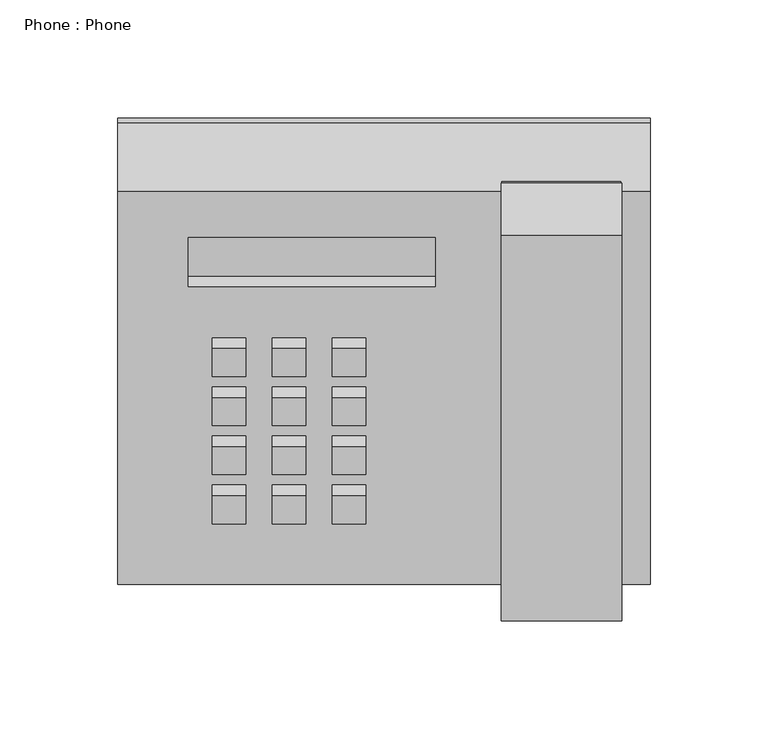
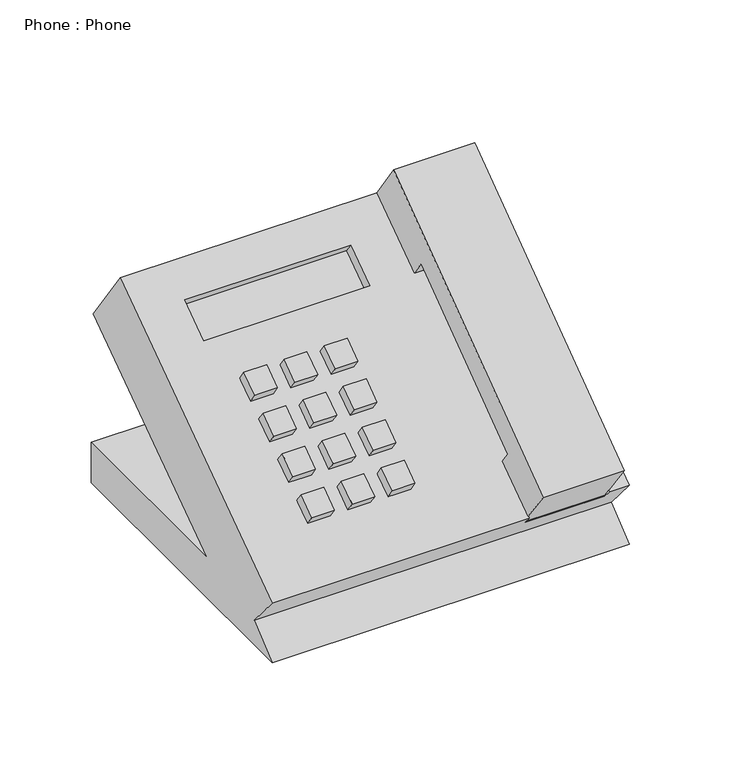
"""IFC4 building model written with IfcOpenShell, lengths in millimetres: proxy geometry, Phone : Phone."""

from ifc_helpers import new_model, si_unit, frame, origin, place, context, project, spatial, polyline, circle_curve, outline, extrude, source, transform, mapped, element, save
from ifc_brep_helpers import plane_surface, revolved_surface, advanced_brep


def phone_phone_b8b7aebd(model_context):
    return source(origin(), model_context, "Body", "SolidModel", [
        extrude(outline(polyline([(-192.7959916, 137.7049621), (-287.6619827, 68.0708655), (-277.2292229, 53.8577982), (-305.0105645, 33.4665172), (-326.4110834, 62.6228576), (-162.9996365, 182.5655431), (-140.703506, 150.723379), (-181.7747369, 121.9649843), (-192.7959916, 137.7049621)])), frame((-197.7434319, 0.0, 0.0), z_axis=(1.0, 0.0, 0.0), x_axis=(0.0, 1.0, 0.0)), (0.0, 0.0, 1.0), 51.1683357),
        extrude(outline(polyline([(14.2875, 0.0), (0.0, 0.0), (0.0, 14.3927765), (14.2875, 14.3927765), (14.2875, 0.0)])), frame((-255.1016834, -248.0305062, 83.5344382), z_axis=(0.0, -0.5735764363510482, 0.8191520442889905), x_axis=(-1.0, 0.0, 0.0)), (0.0, 0.0, 1.0), 7.9375),
        extrude(outline(polyline([(14.2875, 0.0), (0.0, 0.0), (0.0, 14.3927765), (14.2875, 14.3927765), (14.2875, 0.0)])), frame((-255.1016834, -268.8369681, 68.9655967), z_axis=(0.0, -0.5735764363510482, 0.8191520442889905), x_axis=(-1.0, 0.0, 0.0)), (0.0, 0.0, 1.0), 7.9375),
        extrude(outline(polyline([(14.2875, 0.0), (0.0, 0.0), (0.0, 14.3927765), (14.2875, 14.3927765), (14.2875, 0.0)])), frame((-280.5016834, -268.8369681, 68.9655967), z_axis=(0.0, -0.5735764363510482, 0.8191520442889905), x_axis=(-1.0, 0.0, 0.0)), (0.0, 0.0, 1.0), 7.9375),
        extrude(outline(polyline([(14.2875, 0.0), (0.0, 0.0), (0.0, 14.3927765), (14.2875, 14.3927765), (14.2875, 0.0)])), frame((-305.9016834, -268.8369681, 68.9655967), z_axis=(0.0, -0.5735764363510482, 0.8191520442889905), x_axis=(-1.0, 0.0, 0.0)), (0.0, 0.0, 1.0), 7.9375),
        extrude(outline(polyline([(14.2875, 0.0), (0.0, 0.0), (0.0, 14.3927765), (14.2875, 14.3927765), (14.2875, 0.0)])), frame((-305.9016834, -248.0305062, 83.5344382), z_axis=(0.0, -0.5735764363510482, 0.8191520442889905), x_axis=(-1.0, 0.0, 0.0)), (0.0, 0.0, 1.0), 7.9375),
        extrude(outline(polyline([(14.2875, 0.0), (0.0, 0.0), (0.0, 14.3927765), (14.2875, 14.3927765), (14.2875, 0.0)])), frame((-280.5016834, -227.2240442, 98.1032797), z_axis=(0.0, -0.5735764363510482, 0.8191520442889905), x_axis=(-1.0, 0.0, 0.0)), (0.0, 0.0, 1.0), 7.9375),
        extrude(outline(polyline([(14.2875, 0.0), (0.0, 0.0), (0.0, 14.3927765), (14.2875, 14.3927765), (14.2875, 0.0)])), frame((-305.9016834, -227.2240442, 98.1032797), z_axis=(0.0, -0.5735764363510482, 0.8191520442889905), x_axis=(-1.0, 0.0, 0.0)), (0.0, 0.0, 1.0), 7.9375),
        extrude(outline(polyline([(14.2875, 0.0), (0.0, 0.0), (0.0, 14.3927765), (14.2875, 14.3927765), (14.2875, 0.0)])), frame((-280.5016834, -248.0305062, 83.5344382), z_axis=(0.0, -0.5735764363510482, 0.8191520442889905), x_axis=(-1.0, 0.0, 0.0)), (0.0, 0.0, 1.0), 7.9375),
        extrude(outline(polyline([(14.2875, 0.0), (0.0, 0.0), (0.0, 14.3927765), (14.2875, 14.3927765), (14.2875, 0.0)])), frame((-255.1016834, -227.2240442, 98.1032797), z_axis=(0.0, -0.5735764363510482, 0.8191520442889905), x_axis=(-1.0, 0.0, 0.0)), (0.0, 0.0, 1.0), 7.9375),
        extrude(outline(polyline([(14.2875, 0.0), (0.0, 0.0), (0.0, 14.3927765), (14.2875, 14.3927765), (14.2875, 0.0)])), frame((-305.9016834, -206.4175823, 112.6721212), z_axis=(0.0, -0.5735764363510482, 0.8191520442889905), x_axis=(-1.0, 0.0, 0.0)), (0.0, 0.0, 1.0), 7.9375),
        extrude(outline(polyline([(14.2875, 0.0), (0.0, 0.0), (0.0, 14.3927765), (14.2875, 14.3927765), (14.2875, 0.0)])), frame((-280.5016834, -206.4175823, 112.6721212), z_axis=(0.0, -0.5735764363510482, 0.8191520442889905), x_axis=(-1.0, 0.0, 0.0)), (0.0, 0.0, 1.0), 7.9375),
        extrude(outline(polyline([(14.2875, 0.0), (0.0, 0.0), (0.0, 14.3927765), (14.2875, 14.3927765), (14.2875, 0.0)])), frame((-255.1016834, -206.4175823, 112.6721212), z_axis=(0.0, -0.5735764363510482, 0.8191520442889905), x_axis=(-1.0, 0.0, 0.0)), (0.0, 0.0, 1.0), 7.9375),
        advanced_brep(
        [(-134.6688462, -310.896229, 0.0), (-134.6688462, -113.1456221, 0.0), (-134.6688462, -113.1456221, 27.0401443), (-134.6688462, -240.1456221, 27.0401443), (-134.6688462, -115.3068506, 114.4531932), (-134.6688462, -144.4445336, 156.0661171), (-134.6688462, -310.896229, 39.5153852), (-134.6688462, -291.4387001, 16.3268053), (-360.0938462, -310.896229, 0.0), (-360.0938462, -291.4387001, 16.3268053), (-360.0938462, -310.896229, 39.5153852), (-360.0938462, -144.4445336, 156.0661171), (-360.0938462, -115.3068506, 114.4531932), (-360.0938462, -240.1456221, 27.0401443), (-360.0938462, -113.1456221, 27.0401443), (-360.0938462, -113.1456221, 0.0), (-146.9434319, -310.896229, 39.5153852), (-146.9434319, -305.774613, 33.411681), (-197.7434319, -305.774613, 33.411681), (-197.7434319, -310.896229, 39.5153852), (-146.9434319, -144.4445336, 156.0661171), (-146.9434319, -165.2509955, 141.4972756), (-197.7434319, -165.2509955, 141.4972756), (-197.7434319, -144.4445336, 156.0661171), (-197.7434319, -295.2913825, 50.4420163), (-146.9434319, -295.2913825, 50.4420163), (-225.6135974, -163.8453353, 142.4815295), (-225.6135974, -184.6517972, 127.912688), (-330.264726, -184.6517972, 127.912688), (-330.264726, -163.8453353, 142.4815295), (-197.7434319, -139.8917706, 149.5640977), (-146.9434319, -139.8917706, 149.5640977), (-330.264726, -159.2925723, 135.9795101), (-330.264726, -180.0990342, 121.4106686), (-225.6135974, -180.0990342, 121.4106686), (-225.6135974, -159.2925723, 135.9795101), (-197.7434319, -160.6982325, 134.9952562), (-146.9434319, -160.6982325, 134.9952562), (-197.7434319, -290.7386196, 43.939997), (-146.9434319, -290.7386196, 43.939997)],
        [
            (0, 1),
            (1, 2),
            (2, 3),
            (3, 4),
            (4, 5),
            (5, 6),
            (6, 7),
            (7, 0),
            (8, 9),
            (9, 10),
            (10, 11),
            (11, 12),
            (12, 13),
            (13, 14),
            (14, 15),
            (15, 8),
            (7, 9),
            (8, 0),
            (6, 16),
            (16, 17),
            (17, 18),
            (18, 19),
            (19, 10),
            (5, 20),
            (20, 21),
            (21, 22, circle_curve(frame((-172.3434319, -165.2509955, 141.4972756), z_axis=(0.0, 0.5735764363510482, -0.8191520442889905), x_axis=(-1.0, 0.0, 0.0)), 25.4)),
            (22, 23),
            (23, 11),
            (19, 24),
            (24, 25, circle_curve(frame((-172.3434319, -301.9734201, 45.7632032), z_axis=(0.0, 0.5735764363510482, -0.8191520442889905), x_axis=(-1.0, 0.0, 0.0)), 26.6777233)),
            (25, 16),
            (26, 27),
            (27, 28),
            (28, 29),
            (29, 26),
            (4, 12),
            (23, 30),
            (30, 31),
            (31, 20),
            (3, 13),
            (2, 14),
            (1, 15),
            (32, 33),
            (33, 34),
            (34, 35),
            (35, 32),
            (35, 26),
            (29, 32),
            (34, 27),
            (33, 28),
            (30, 36),
            (36, 37, circle_curve(frame((-172.3434319, -160.6982325, 134.9952562), z_axis=(0.0, -0.5735764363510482, 0.8191520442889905), x_axis=(-1.0, 0.0, 0.0)), 25.4)),
            (37, 31),
            (37, 21),
            (36, 22),
            (38, 18),
            (17, 39),
            (39, 38, circle_curve(frame((-172.3434319, -297.4206572, 39.2611839), z_axis=(0.0, -0.5735764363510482, 0.8191520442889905), x_axis=(-1.0, 0.0, 0.0)), 26.6777233)),
            (25, 39),
            (38, 24),
        ],
        [
            plane_surface(frame((-134.6688462, -310.896229, 0.0), z_axis=(1.0, 0.0, 0.0), x_axis=(0.0, 0.7660444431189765, 0.6427876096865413))),
            plane_surface(frame((-360.0938462, -310.896229, 0.0), z_axis=(-1.0, 0.0, 0.0), x_axis=(0.0, -0.7660444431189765, -0.6427876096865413))),
            plane_surface(frame((-134.6688462, -310.896229, 0.0), z_axis=(0.0, -0.6427876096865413, 0.7660444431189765), x_axis=(-1.0, 0.0, 0.0))),
            plane_surface(frame((-134.6688462, -291.4387001, 16.3268053), z_axis=(0.0, -0.7660444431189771, -0.6427876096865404), x_axis=(-1.0, 0.0, 0.0))),
            plane_surface(frame((-134.6688462, -310.896229, 39.5153852), z_axis=(0.0, -0.5735764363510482, 0.8191520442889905), x_axis=(-1.0, 0.0, 0.0))),
            plane_surface(frame((-134.6688462, -144.4445336, 156.0661171), z_axis=(0.0, 0.8191520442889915, 0.5735764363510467), x_axis=(-1.0, 0.0, 0.0))),
            plane_surface(frame((-134.6688462, -115.3068506, 114.4531932), z_axis=(0.0, 0.57357643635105, -0.819152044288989), x_axis=(-1.0, 0.0, 0.0))),
            plane_surface(frame((-134.6688462, -240.1456221, 27.0401443), z_axis=(0.0, 0.0, 1.0), x_axis=(-1.0, 0.0, 0.0))),
            plane_surface(frame((-134.6688462, -113.1456221, 27.0401443), z_axis=(0.0, 1.0, 0.0), x_axis=(-1.0, 0.0, 0.0))),
            plane_surface(frame((-134.6688462, -113.1456221, 0.0), z_axis=(0.0, 0.0, -1.0), x_axis=(-1.0, 0.0, 0.0))),
            plane_surface(frame((-203.264726, -159.2925723, 135.9795101), z_axis=(0.0, -0.5735764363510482, 0.8191520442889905), x_axis=(-1.0, 0.0, 0.0))),
            plane_surface(frame((-330.264726, -163.8453353, 142.4815295), z_axis=(0.0, -0.8191520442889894, -0.5735764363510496), x_axis=(0.0, 0.5735764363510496, -0.8191520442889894))),
            plane_surface(frame((-225.6135974, -163.8453353, 142.4815295), z_axis=(-1.0, 0.0, 0.0), x_axis=(0.0, 0.5735764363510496, -0.8191520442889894))),
            plane_surface(frame((-225.6135974, -184.6517972, 127.912688), z_axis=(0.0, 0.8191520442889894, 0.5735764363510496), x_axis=(0.0, 0.5735764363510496, -0.8191520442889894))),
            plane_surface(frame((-330.264726, -184.6517972, 127.912688), z_axis=(1.0, 0.0, 0.0), x_axis=(0.0, 0.5735764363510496, -0.8191520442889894))),
            plane_surface(frame((-146.9434319, -139.8917706, 149.5640977), z_axis=(0.0, -0.5735764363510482, 0.8191520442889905), x_axis=(-1.0, 0.0, 0.0))),
            plane_surface(frame((-146.9434319, -144.4445336, 156.0661171), z_axis=(-1.0, 0.0, 0.0), x_axis=(0.0, 0.5735764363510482, -0.8191520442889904))),
            revolved_surface(polyline([(-197.74343190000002, -165.25099549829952, 141.4972756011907), (-197.74343190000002, -160.6982325, 134.9952562)]), (-172.3434319, -160.6982325, 134.9952562), (0.0, -0.5735764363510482, 0.8191520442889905)),
            plane_surface(frame((-197.7434319, -165.2509955, 141.4972756), z_axis=(1.0, 0.0, 0.0), x_axis=(0.0, 0.5735764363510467, -0.8191520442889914))),
            plane_surface(frame((-146.9434319, -308.4443251, 31.5423285), z_axis=(0.0, -0.5735764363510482, 0.8191520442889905), x_axis=(0.0, 0.8191520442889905, 0.5735764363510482))),
            plane_surface(frame((-146.9434319, -295.2913825, 50.4420163), z_axis=(-1.0000000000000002, 0.0, 0.0), x_axis=(0.0, 0.5735764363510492, -0.8191520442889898))),
            plane_surface(frame((-197.7434319, -312.997088, 38.0443478), z_axis=(1.0000000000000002, 0.0, 0.0), x_axis=(0.0, 0.5735764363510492, -0.8191520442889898))),
            revolved_surface(polyline([(-199.0211552, -301.97342011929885, 45.76320318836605), (-199.0211552, -297.4206572, 39.2611839)]), (-172.3434319, -297.4206572, 39.2611839), (0.0, -0.5735764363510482, 0.8191520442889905)),
        ],
        [
            (0, [[1, 2, 3, 4, 5, 6, 7, 8]]),
            (1, [[9, 10, 11, 12, 13, 14, 15, 16]]),
            (2, [[17, -9, 18, -8]]),
            (3, [[19, 20, 21, 22, 23, -10, -17, -7]]),
            (4, [[24, 25, 26, 27, 28, -11, -23, 29, 30, 31, -19, -6], [32, 33, 34, 35]]),
            (5, [[36, -12, -28, 37, 38, 39, -24, -5]]),
            (6, [[40, -13, -36, -4]]),
            (7, [[41, -14, -40, -3]]),
            (8, [[42, -15, -41, -2]]),
            (9, [[-18, -16, -42, -1]]),
            (10, [[43, 44, 45, 46]]),
            (11, [[47, -35, 48, -46]]),
            (12, [[49, -32, -47, -45]]),
            (13, [[50, -33, -49, -44]]),
            (14, [[-48, -34, -50, -43]]),
            (15, [[-38, 51, 52, 53]]),
            (16, [[54, -25, -39, -53]]),
            (17, [[55, -26, -54, -52]]),
            (18, [[-37, -27, -55, -51]]),
            (19, [[56, -21, 57, 58]]),
            (20, [[-57, -20, -31, 59]]),
            (21, [[-29, -22, -56, 60]]),
            (22, [[-59, -30, -60, -58]]),
        ],
    ),
    ])


if __name__ == "__main__":
    model = new_model("IFC4")
    model_context = context("Model", 3, world=origin())
    ifc_project = project(units=[si_unit("LENGTHUNIT", "METRE", prefix="MILLI")], contexts=[model_context])
    site = spatial("IfcSite", under=ifc_project)
    building = spatial("IfcBuilding", under=site)
    placement = place(None, origin())
    phone_phone_shape = phone_phone_b8b7aebd(model_context)
    element("IfcBuildingElementProxy", 1, Name="Phone : Phone", ObjectType="Phone : Phone", at=placement, inside=building, context=model_context, shape_type="MappedRepresentation", body=[
        mapped(phone_phone_shape, transform((0.0, 0.0, 0.0), x_axis=(1.0, 0.0, 0.0), y_axis=(0.0, 1.0, 0.0), z_axis=(0.0, 0.0, 1.0))),
    ])
    save(model, "model.ifc")
